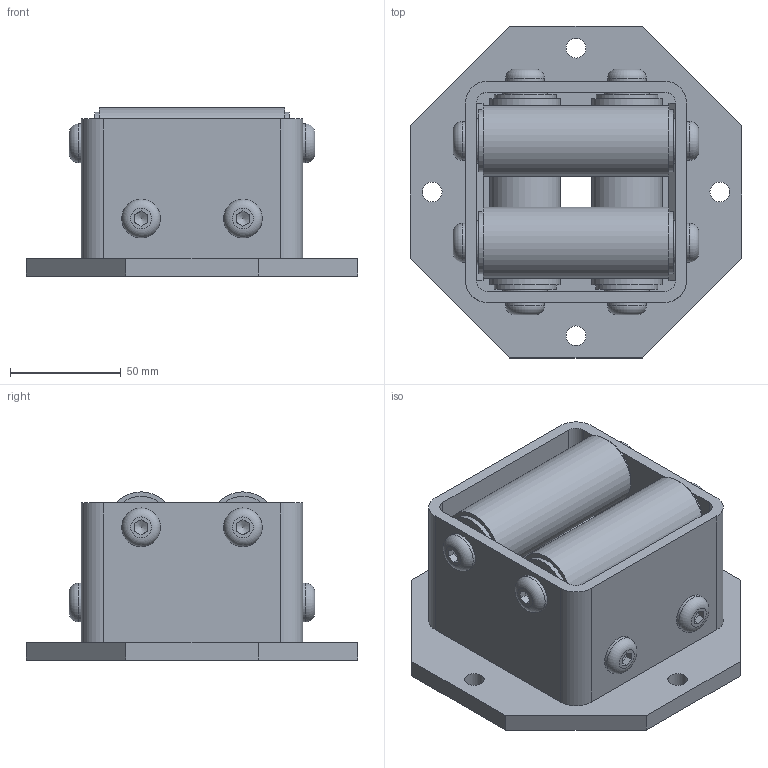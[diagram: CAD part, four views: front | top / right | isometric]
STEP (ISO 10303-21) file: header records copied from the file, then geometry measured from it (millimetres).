
FILE_DESCRIPTION(/* description */ ('Seilkreuz SK 02 G'),/* implementation_level */ '2;1');
FILE_NAME(/* name */ 'Z:\Workspace\03 Seilrollen\1.412 Seilkreuz\1.412.02 Seilkreuz SK 02 G\1.412.02 Seilkreuz SK 02 G.stp',/* time_stamp */ '2021-10-26T09:13:12+02:00',/* author */ ('cad-user'),/* organization */ (''),/* preprocessor_version */ 'ST-DEVELOPER v18',/* originating_system */ 'Autodesk Inventor 2020',/* authorisation */ '');
FILE_SCHEMA (('AUTOMOTIVE_DESIGN { 1 0 10303 214 3 1 1 }'));
Length unit declared in the file: millimetre
Products named in the file (9): 1.412.02 Seilkreuz SK 02 G; 1.412.02.01 Konsole Schweißteil; 1.412.02.01 Konsole Schweißteil_1; 1.412.02.02 Platte; 1.412.02.03 VK-Rohr 100x100x5; 1.412.02.04 Rohr ø32 x 4; Bundbuchse SBB202420; 1.412.02.05 Achse; ISO 7380 - M10 x 25
Assembly tree (28 placements, depth 3):
  1.412.02 Seilkreuz SK 02 G
    1.412.02.01 Konsole Schweißteil
      1.412.02.01 Konsole Schweißteil_1
      1.412.02.02 Platte
      1.412.02.03 VK-Rohr 100x100x5
    1.412.02.04 Rohr ø32 x 4  x4
    Bundbuchse SBB202420  x8
    1.412.02.05 Achse  x4
    ISO 7380 - M10 x 25  x8
Bounding box: 150 x 150 x 76 mm (x, y, z)
Volume: 492955.1 mm3; surface area: 218782.9 mm2
Topology: 28 solids, 28 shells, 279 faces, 693 edges, 486 vertices
Faces by surface type: plane 142, cylinder 81, cone 32, torus 24
Full cylindrical faces by diameter (mm): 8.376 x8, 9 x4, 10 x8, 11 x8, 17.5 x8, 20 x12, 24 x12, 28 x8, 32 x4, 70 x1
Entity records: 3207 total; most frequent: DIRECTION 551, CARTESIAN_POINT 506, ORIENTED_EDGE 434, AXIS2_PLACEMENT_3D 218, EDGE_CURVE 217, VERTEX_POINT 152, EDGE_LOOP 123, LINE 115
